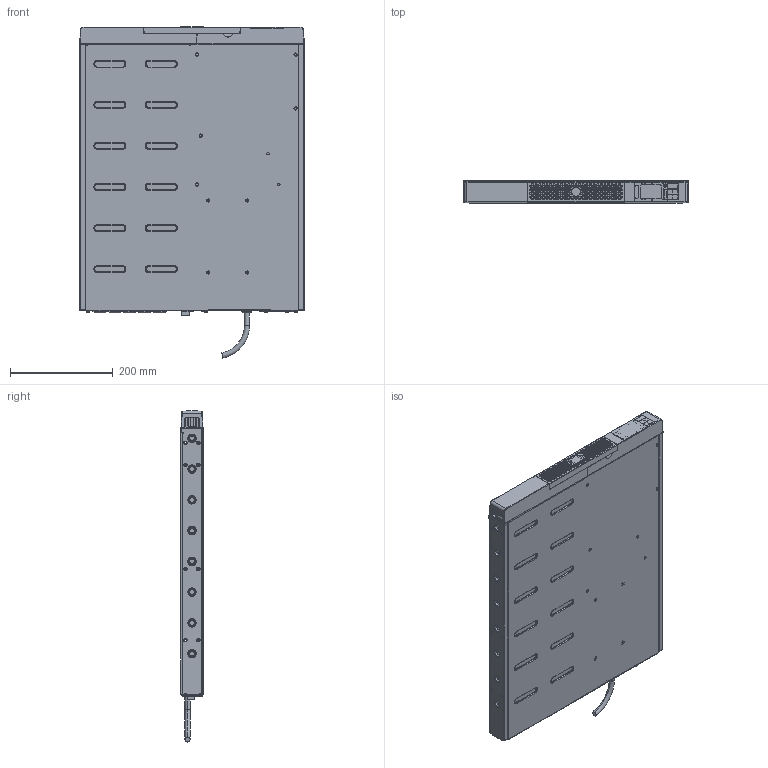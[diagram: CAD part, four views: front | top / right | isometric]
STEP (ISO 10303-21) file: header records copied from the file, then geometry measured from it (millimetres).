
FILE_DESCRIPTION((''),'2;1');
FILE_NAME('HALO-RACK-1550_SW0001','2013-02-27T',('E2023539'),(''),'PRO/ENGINEER BY PARAMETRIC TECHNOLOGY CORPORATION, 2011220','PRO/ENGINEER BY PARAMETRIC TECHNOLOGY CORPORATION, 2011220','');
FILE_SCHEMA(('AUTOMOTIVE_DESIGN_CC2 { 1 2 10303 214 -1 1 5 2 }'));
Length unit declared in the file: millimetre
Products named in the file (1): HALO-RACK-1550_SW0001
Bounding box: 438 x 43.2 x 647.48 mm (x, y, z)
Surface area: 585451.3 mm2 (no closed solid volume)
Topology: 0 solids, 166 shells, 523 faces, 3976 edges, 3604 vertices
Faces by surface type: plane 249, torus 120, cylinder 102, cone 26, sphere 21, bspline 5
Entity records: 42368 total; most frequent: CARTESIAN_POINT 10490, DIRECTION 6582, ORIENTED_EDGE 4564, EDGE_CURVE 3975, VERTEX_POINT 3604, AXIS2_PLACEMENT_3D 2491, CIRCLE 1973, VECTOR 1600
